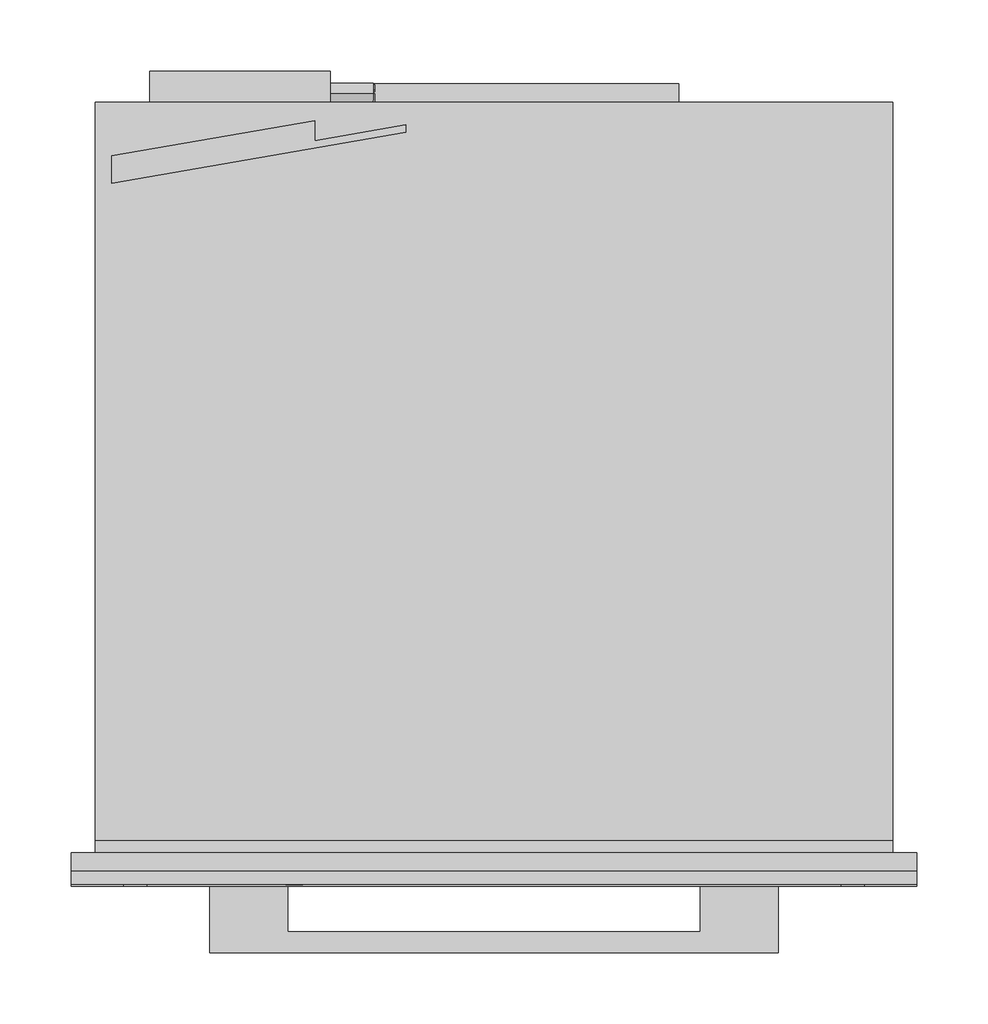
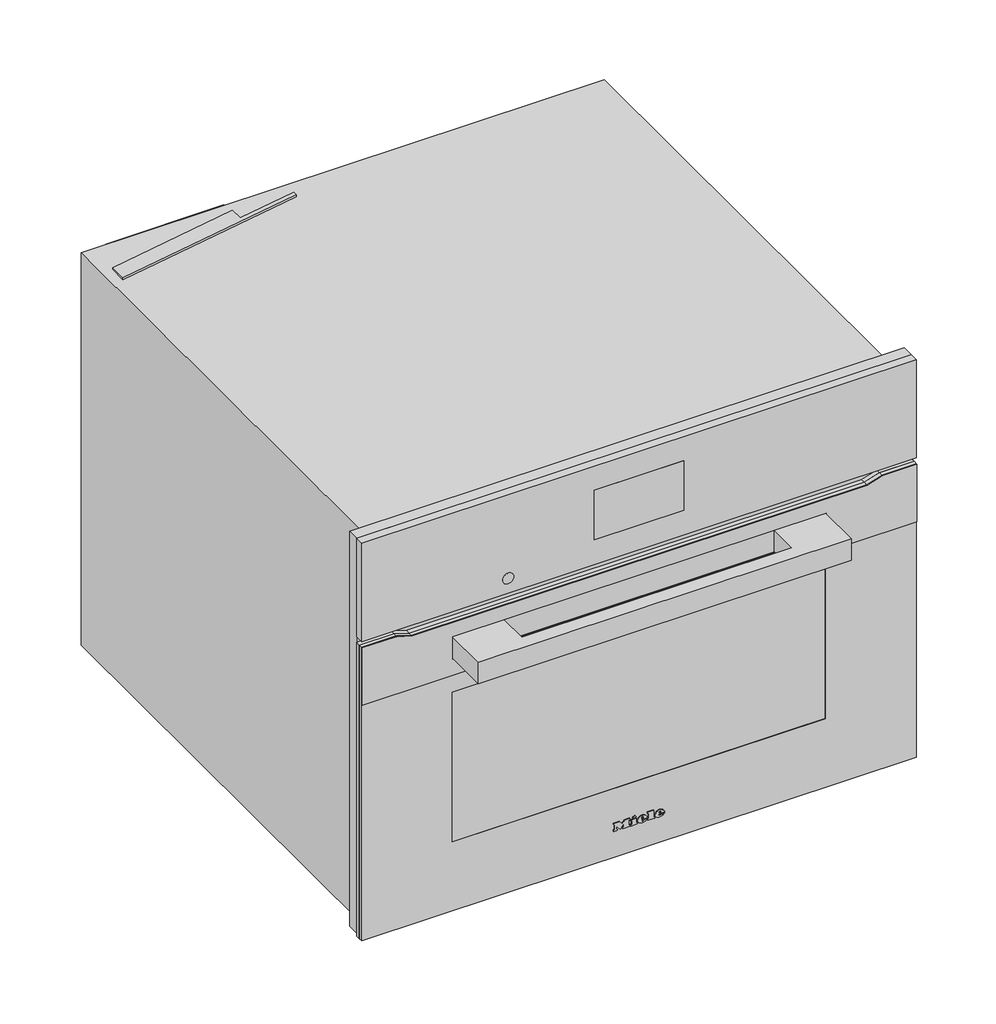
# Not in any storey: 1 proxy.
"""IFC4 building model written with IfcOpenShell, lengths in millimetres."""

from ifc_helpers import new_model, si_unit, origin, place, context, project, spatial, transform, mapped, element, save
from components import specialty_equipment_f8c42bbf

model = new_model("IFC4")

# Units and contexts
model_context = context("Model", 3, world=origin())
ifc_project = project(units=[si_unit("LENGTHUNIT", "METRE", prefix="MILLI")], contexts=[model_context])

# Site, building
site = spatial("IfcSite", under=ifc_project)
building = spatial("IfcBuilding", under=site)

# Proxy
placement = place(None, origin())
specialty_equipment_shape = specialty_equipment_f8c42bbf(model_context)
element("IfcBuildingElementProxy", 1, Name="11804600_USA_H7640BM_EDST-CLST : 22764046_USA_11804600_H7640BM_EDST-CLST", ObjectType="11804600_USA_H7640BM_EDST-CLST : 22764046_USA_11804600_H7640BM_EDST-CLST", at=placement, inside=building, context=model_context, shape_type="MappedRepresentation", body=[
    mapped(specialty_equipment_shape, transform((0.0, 0.0, 0.0), x_axis=(1.0, 0.0, 0.0), y_axis=(0.0, 1.0, 0.0), z_axis=(0.0, 0.0, 1.0))),
])

save(model, "model.ifc")
